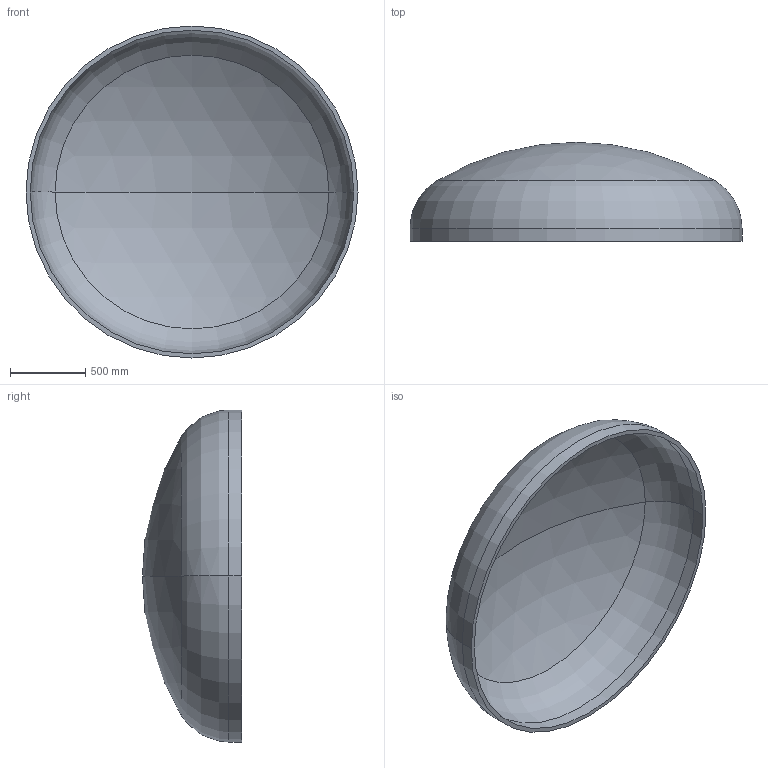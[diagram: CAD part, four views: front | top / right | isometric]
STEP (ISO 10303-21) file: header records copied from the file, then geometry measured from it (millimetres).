
FILE_DESCRIPTION (( 'STEP AP203' ), '1' );
FILE_NAME ('DIN 28013 Korbbogenform_-_Boden DIN 28013 - 2200 x 85 - I - s=28.step', '2016-07-01T14:28:51', ( '' ), ( '' ), 'SwSTEP 2.0', 'SolidWorks 2013', '' );
FILE_SCHEMA (( 'CONFIG_CONTROL_DESIGN' ));
Length unit declared in the file: millimetre
Products named in the file (1): DIN 28013 Korbbogenform_-_Boden DIN 28013 - 2200 x 85 - I - s=28
Bounding box: 2200 x 656.21 x 2200 mm (x, y, z)
Volume: 161295660.7 mm3; surface area: 11713815.7 mm2
Topology: 1 solids, 1 shells, 13 faces, 24 edges, 14 vertices
Faces by surface type: torus 4, cylinder 4, sphere 4, plane 1
Entity records: 407 total; most frequent: DIRECTION 72, CARTESIAN_POINT 52, ORIENTED_EDGE 48, AXIS2_PLACEMENT_3D 34, EDGE_CURVE 24, CIRCLE 20, VERTEX_POINT 14, EDGE_LOOP 14
